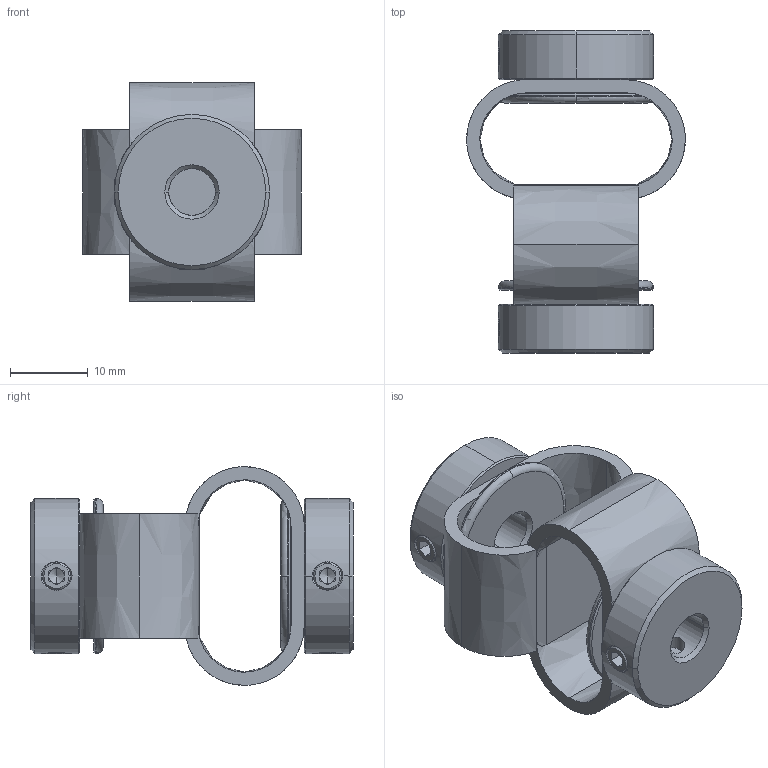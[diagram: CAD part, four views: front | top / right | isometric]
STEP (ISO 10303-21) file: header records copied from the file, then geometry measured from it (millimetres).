
FILE_DESCRIPTION (( 'STEP AP203' ), '1' );
FILE_NAME ('LS-D-D27L40-6-6.STEP', '2021-10-28T06:26:51', ( '' ), ( '' ), 'SwSTEP 2.0', 'SolidWorks 2018', '' );
FILE_SCHEMA (( 'CONFIG_CONTROL_DESIGN' ));
Length unit declared in the file: millimetre
Products named in the file (1): LS-D-D27L40-6-6
Bounding box: 28.2 x 41.54 x 28.2 mm (x, y, z)
Volume: 7308.3 mm3; surface area: 6695.5 mm2
Topology: 1 solids, 1 shells, 190 faces, 490 edges, 306 vertices
Faces by surface type: plane 86, cone 54, cylinder 30, bspline 16, torus 4
Entity records: 7775 total; most frequent: CARTESIAN_POINT 3217, ORIENTED_EDGE 964, DIRECTION 886, EDGE_CURVE 482, AXIS2_PLACEMENT_3D 345, VERTEX_POINT 306, EDGE_LOOP 218, VECTOR 196
